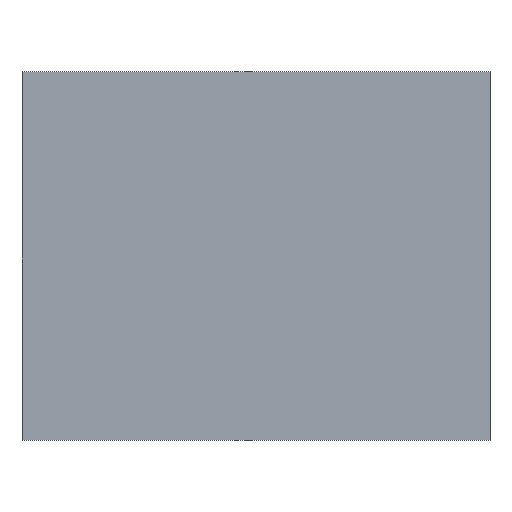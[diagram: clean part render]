
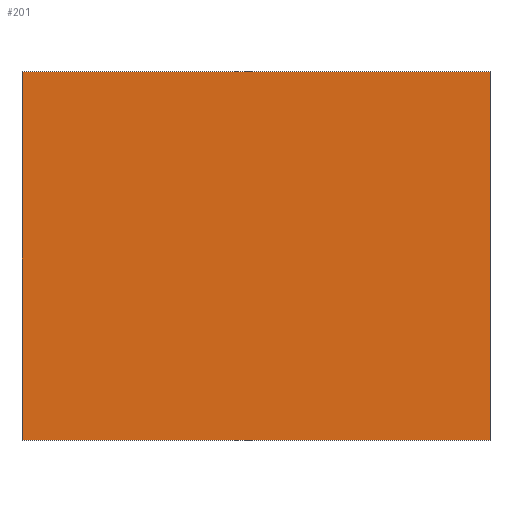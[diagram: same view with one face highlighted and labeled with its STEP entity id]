
A CAD part, top view. The second image highlights one B-rep face of the part: STEP entity #201.
In plain terms, the highlighted planar face has unit normal (0, 0, 1).
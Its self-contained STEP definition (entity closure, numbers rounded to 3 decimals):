
#3 = EDGE_CURVE ( 'NONE', #36, #37, #134, .T. ) ;
#8 = EDGE_CURVE ( 'NONE', #31, #36, #165, .T. ) ;
#12 = EDGE_CURVE ( 'NONE', #37, #32, #145, .T. ) ;
#13 = EDGE_CURVE ( 'NONE', #32, #31, #159, .T. ) ;
#22 = AXIS2_PLACEMENT_3D ( 'NONE', #102, #109, #55 ) ;
#30 = DIRECTION ( 'NONE',  ( 1., 0., 0. ) ) ;
#31 = VERTEX_POINT ( 'NONE', #50 ) ;
#32 = VERTEX_POINT ( 'NONE', #59 ) ;
#36 = VERTEX_POINT ( 'NONE', #78 ) ;
#37 = VERTEX_POINT ( 'NONE', #54 ) ;
#39 = CARTESIAN_POINT ( 'NONE',  ( -304., 0., 6. ) ) ;
#46 = CARTESIAN_POINT ( 'NONE',  ( -304., 479., 6. ) ) ;
#49 = DIRECTION ( 'NONE',  ( -1., 0., 0. ) ) ;
#50 = CARTESIAN_POINT ( 'NONE',  ( -304., 479., 6. ) ) ;
#54 = CARTESIAN_POINT ( 'NONE',  ( 304., 0., 6. ) ) ;
#55 = DIRECTION ( 'NONE',  ( 0., 1., 0. ) ) ;
#59 = CARTESIAN_POINT ( 'NONE',  ( 304., 479., 6. ) ) ;
#64 = DIRECTION ( 'NONE',  ( 0., -1., 0. ) ) ;
#75 = CARTESIAN_POINT ( 'NONE',  ( -304., 0., 6. ) ) ;
#78 = CARTESIAN_POINT ( 'NONE',  ( -304., 0., 6. ) ) ;
#97 = CARTESIAN_POINT ( 'NONE',  ( 304., 0., 6. ) ) ;
#100 = PLANE ( 'NONE',  #22 ) ;
#102 = CARTESIAN_POINT ( 'NONE',  ( -304., 479., 6. ) ) ;
#104 = DIRECTION ( 'NONE',  ( 0., 1., 0. ) ) ;
#109 = DIRECTION ( 'NONE',  ( 0., 0., -1. ) ) ;
#132 = VECTOR ( 'NONE', #30, 1000. ) ;
#134 = LINE ( 'NONE', #39, #132 ) ;
#139 = VECTOR ( 'NONE', #104, 1000. ) ;
#145 = LINE ( 'NONE', #97, #139 ) ;
#155 = VECTOR ( 'NONE', #64, 1000. ) ;
#159 = LINE ( 'NONE', #46, #166 ) ;
#163 = ORIENTED_EDGE ( 'NONE', *, *, #13, .T. ) ;
#165 = LINE ( 'NONE', #75, #155 ) ;
#166 = VECTOR ( 'NONE', #49, 1000. ) ;
#169 = ORIENTED_EDGE ( 'NONE', *, *, #8, .T. ) ;
#170 = EDGE_LOOP ( 'NONE', ( #169, #176, #175, #163 ) ) ;
#171 = FACE_OUTER_BOUND ( 'NONE', #170, .T. ) ;
#175 = ORIENTED_EDGE ( 'NONE', *, *, #12, .T. ) ;
#176 = ORIENTED_EDGE ( 'NONE', *, *, #3, .T. ) ;
#201 = ADVANCED_FACE ( 'NONE', ( #171 ), #100, .F. ) ;
